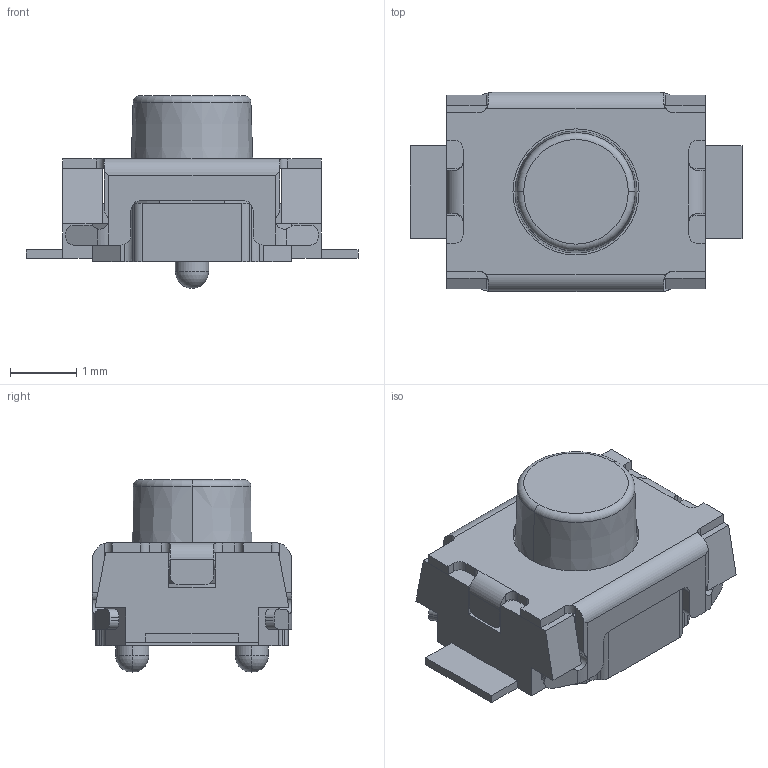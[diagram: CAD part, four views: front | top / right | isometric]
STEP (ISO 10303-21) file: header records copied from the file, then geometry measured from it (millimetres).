
FILE_DESCRIPTION((''),'2;1');
FILE_NAME('JQA3040A-C0251-01BEG-1-101_ASM','2026-05-21T15:05:00',('Admin'),(''),'CREO PARAMETRIC BY PTC INC, 2019224','CREO PARAMETRIC BY PTC INC, 2019224','');
FILE_SCHEMA(('AUTOMOTIVE_DESIGN { 1 0 10303 214 1 1 1 1 }'));
Length unit declared in the file: millimetre
Products named in the file (3): JQA3040A-C0251-01BEG-1-101_03; JQA3040A-C0251-01BEG-1-101_04; JQA3040A-C0251-01BEG-1-101_ASM
Assembly tree (2 placements, depth 2):
  JQA3040A-C0251-01BEG-1-101_ASM
    JQA3040A-C0251-01BEG-1-101_03
    JQA3040A-C0251-01BEG-1-101_04
Bounding box: 5 x 3 x 2.9 mm (x, y, z)
Volume: 16.2 mm3; surface area: 89.7 mm2
Topology: 2 solids, 2 shells, 242 faces, 685 edges, 452 vertices
Faces by surface type: plane 136, cylinder 94, sphere 4, cone 4, torus 4
Entity records: 9336 total; most frequent: CARTESIAN_POINT 1707, ORIENTED_EDGE 1356, DIRECTION 1305, EDGE_CURVE 678, VECTOR 451, LINE 451, VERTEX_POINT 446, AXIS2_PLACEMENT_3D 427
